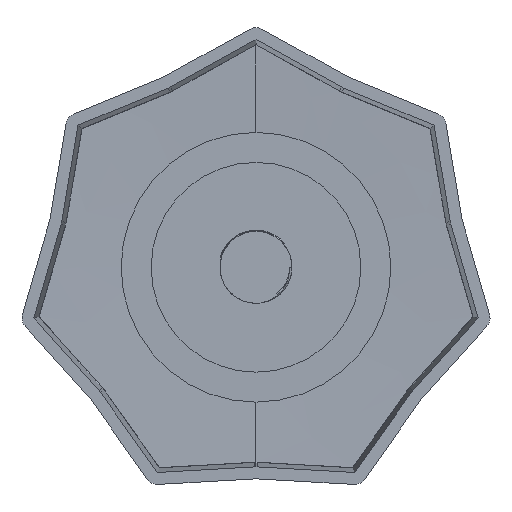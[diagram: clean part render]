
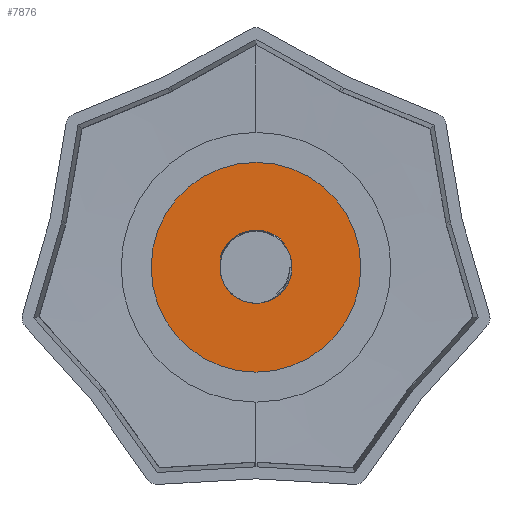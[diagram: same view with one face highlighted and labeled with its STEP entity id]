
A CAD part, front view. The second image highlights one B-rep face of the part: STEP entity #7876.
In plain terms, the highlighted planar face has unit normal (0, -1, 0).
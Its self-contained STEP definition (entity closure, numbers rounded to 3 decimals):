
#53 = DIRECTION ( 'NONE',  ( 0., -1., 0. ) ) ;
#93 = CARTESIAN_POINT ( 'NONE',  ( 0., -8., -6. ) ) ;
#223 = ORIENTED_EDGE ( 'NONE', *, *, #3284, .T. ) ;
#294 = CARTESIAN_POINT ( 'NONE',  ( -3.63, -8., 4.81 ) ) ;
#545 = EDGE_CURVE ( 'NONE', #4796, #1514, #921, .T. ) ;
#573 = CARTESIAN_POINT ( 'NONE',  ( 0., -8., 0. ) ) ;
#616 = CIRCLE ( 'NONE', #1456, 17.5 ) ;
#686 = EDGE_LOOP ( 'NONE', ( #5253, #3664, #7707, #2360, #223 ) ) ;
#921 = LINE ( 'NONE', #7836, #4226 ) ;
#987 = CARTESIAN_POINT ( 'NONE',  ( -3.321, -8., 4.997 ) ) ;
#1246 = DIRECTION ( 'NONE',  ( 0., 0., -1. ) ) ;
#1268 = CARTESIAN_POINT ( 'NONE',  ( 0., -8., 0. ) ) ;
#1286 = CARTESIAN_POINT ( 'NONE',  ( 4.749, -8., 3.985 ) ) ;
#1456 = AXIS2_PLACEMENT_3D ( 'NONE', #1268, #5920, #1942 ) ;
#1514 = VERTEX_POINT ( 'NONE', #7740 ) ;
#1553 = FACE_BOUND ( 'NONE', #686, .T. ) ;
#1645 = PLANE ( 'NONE',  #4159 ) ;
#1665 = CARTESIAN_POINT ( 'NONE',  ( -4.721, -8., 3.851 ) ) ;
#1687 = AXIS2_PLACEMENT_3D ( 'NONE', #573, #5211, #1246 ) ;
#1742 = AXIS2_PLACEMENT_3D ( 'NONE', #4007, #53, #4677 ) ;
#1873 = CARTESIAN_POINT ( 'NONE',  ( 0., -8., 0. ) ) ;
#1942 = DIRECTION ( 'NONE',  ( 0., 0., -1. ) ) ;
#2069 = EDGE_CURVE ( 'NONE', #4488, #7339, #7152, .T. ) ;
#2321 = CARTESIAN_POINT ( 'NONE',  ( -3.321, -8., 4.997 ) ) ;
#2337 = CARTESIAN_POINT ( 'NONE',  ( -5.37, -8., 2.985 ) ) ;
#2360 = ORIENTED_EDGE ( 'NONE', *, *, #2069, .F. ) ;
#2545 = DIRECTION ( 'NONE',  ( 0., 0., -1. ) ) ;
#2744 = EDGE_CURVE ( 'NONE', #4252, #5106, #7494, .T. ) ;
#2863 = CARTESIAN_POINT ( 'NONE',  ( 0., -8., 17.5 ) ) ;
#2979 = DIRECTION ( 'NONE',  ( 0., 0., -1. ) ) ;
#2998 = CARTESIAN_POINT ( 'NONE',  ( -5.86, -8., 2.007 ) ) ;
#3136 = CIRCLE ( 'NONE', #1742, 6. ) ;
#3207 = ORIENTED_EDGE ( 'NONE', *, *, #6187, .T. ) ;
#3284 = EDGE_CURVE ( 'NONE', #4488, #7440, #4225, .T. ) ;
#3375 = DIRECTION ( 'NONE',  ( 0., 1., 0. ) ) ;
#3664 = ORIENTED_EDGE ( 'NONE', *, *, #545, .T. ) ;
#4007 = CARTESIAN_POINT ( 'NONE',  ( 0., -8., 0. ) ) ;
#4133 = EDGE_CURVE ( 'NONE', #7440, #4796, #8381, .T. ) ;
#4159 = AXIS2_PLACEMENT_3D ( 'NONE', #6287, #6955, #2979 ) ;
#4202 = EDGE_CURVE ( 'NONE', #7339, #1514, #3136, .T. ) ;
#4225 = B_SPLINE_CURVE_WITH_KNOTS ( 'NONE', 3,
 ( #987, #294, #4246, #5632, #1665, #6308, #2337, #6973, #2998, #7613 ),
 .UNSPECIFIED., .F., .F.,
 ( 4, 2, 2, 2, 4 ),
 ( 0.008, 0.01, 0.011, 0.012, 0.013 ),
 .UNSPECIFIED. ) ;
#4226 = VECTOR ( 'NONE', #4538, 1000. ) ;
#4246 = CARTESIAN_POINT ( 'NONE',  ( -3.922, -8., 4.597 ) ) ;
#4252 = VERTEX_POINT ( 'NONE', #6034 ) ;
#4488 = VERTEX_POINT ( 'NONE', #2321 ) ;
#4538 = DIRECTION ( 'NONE',  ( -0.766, 0., -0.643 ) ) ;
#4677 = DIRECTION ( 'NONE',  ( 0., 0., -1. ) ) ;
#4796 = VERTEX_POINT ( 'NONE', #1286 ) ;
#4847 = FACE_OUTER_BOUND ( 'NONE', #4862, .T. ) ;
#4862 = EDGE_LOOP ( 'NONE', ( #3207, #7004 ) ) ;
#4872 = CARTESIAN_POINT ( 'NONE',  ( -5.974, -8., 1.659 ) ) ;
#4889 = AXIS2_PLACEMENT_3D ( 'NONE', #1873, #6515, #2545 ) ;
#5106 = VERTEX_POINT ( 'NONE', #2863 ) ;
#5211 = DIRECTION ( 'NONE',  ( 0., -1., 0. ) ) ;
#5253 = ORIENTED_EDGE ( 'NONE', *, *, #4133, .T. ) ;
#5632 = CARTESIAN_POINT ( 'NONE',  ( -4.471, -8., 4.115 ) ) ;
#5920 = DIRECTION ( 'NONE',  ( 0., -1., 0. ) ) ;
#6034 = CARTESIAN_POINT ( 'NONE',  ( 0., -8., -17.5 ) ) ;
#6187 = EDGE_CURVE ( 'NONE', #5106, #4252, #616, .T. ) ;
#6287 = CARTESIAN_POINT ( 'NONE',  ( 0., -8., 0. ) ) ;
#6308 = CARTESIAN_POINT ( 'NONE',  ( -5.17, -8., 3.287 ) ) ;
#6515 = DIRECTION ( 'NONE',  ( 0., -1., 0. ) ) ;
#6955 = DIRECTION ( 'NONE',  ( 0., -1., 0. ) ) ;
#6973 = CARTESIAN_POINT ( 'NONE',  ( -5.717, -8., 2.341 ) ) ;
#7004 = ORIENTED_EDGE ( 'NONE', *, *, #2744, .T. ) ;
#7152 = CIRCLE ( 'NONE', #1687, 6. ) ;
#7339 = VERTEX_POINT ( 'NONE', #93 ) ;
#7359 = CARTESIAN_POINT ( 'NONE',  ( 0., -8., 0. ) ) ;
#7440 = VERTEX_POINT ( 'NONE', #4872 ) ;
#7494 = CIRCLE ( 'NONE', #4889, 17.5 ) ;
#7613 = CARTESIAN_POINT ( 'NONE',  ( -5.974, -8., 1.659 ) ) ;
#7707 = ORIENTED_EDGE ( 'NONE', *, *, #4202, .F. ) ;
#7740 = CARTESIAN_POINT ( 'NONE',  ( 4.596, -8., 3.857 ) ) ;
#7836 = CARTESIAN_POINT ( 'NONE',  ( 0., -8., 0. ) ) ;
#7876 = ADVANCED_FACE ( 'NONE', ( #4847, #1553 ), #1645, .T. ) ;
#7989 = DIRECTION ( 'NONE',  ( 0., 0., -1. ) ) ;
#8381 = CIRCLE ( 'NONE', #8534, 6.2 ) ;
#8534 = AXIS2_PLACEMENT_3D ( 'NONE', #7359, #3375, #7989 ) ;
